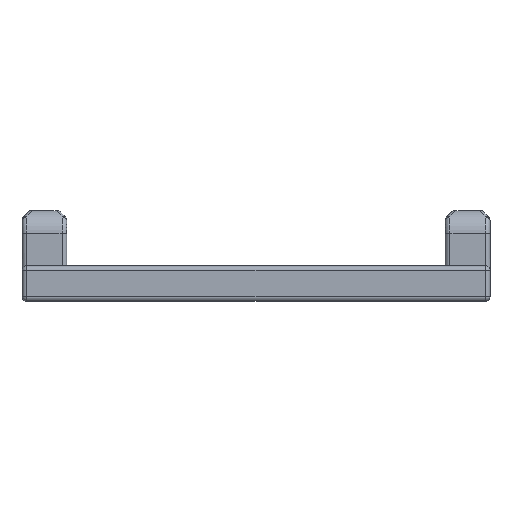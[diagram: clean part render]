
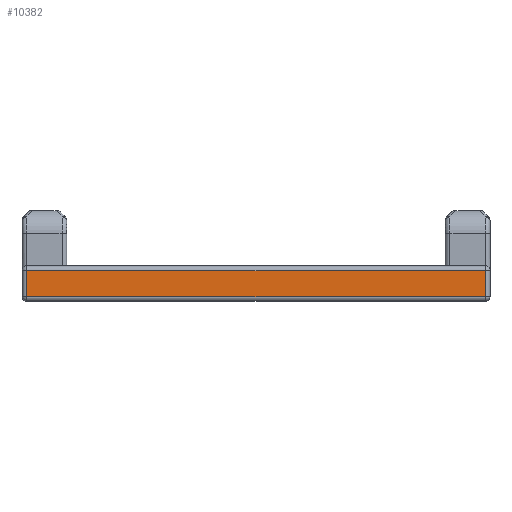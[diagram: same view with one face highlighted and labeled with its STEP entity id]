
A CAD part, top view. The second image highlights one B-rep face of the part: STEP entity #10382.
In plain terms, the highlighted planar face has unit normal (0, 0, 1) as drawn and (0, 1, 0) by its records, which use the part's own axes.
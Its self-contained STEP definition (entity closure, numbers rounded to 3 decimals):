
#696=LINE('',#13919,#1745);
#697=LINE('',#13922,#1746);
#698=LINE('',#13924,#1747);
#699=LINE('',#13926,#1748);
#1745=VECTOR('',#11667,1000.);
#1746=VECTOR('',#11668,1000.);
#1747=VECTOR('',#11669,1000.);
#1748=VECTOR('',#11670,1000.);
#2808=ORIENTED_EDGE('',*,*,#5966,.F.);
#2809=ORIENTED_EDGE('',*,*,#5967,.F.);
#2810=ORIENTED_EDGE('',*,*,#5968,.F.);
#2811=ORIENTED_EDGE('',*,*,#5969,.F.);
#5966=EDGE_CURVE('',#7544,#7545,#696,.T.);
#5967=EDGE_CURVE('',#7546,#7544,#697,.T.);
#5968=EDGE_CURVE('',#7547,#7546,#698,.T.);
#5969=EDGE_CURVE('',#7545,#7547,#699,.T.);
#7544=VERTEX_POINT('',#13920);
#7545=VERTEX_POINT('',#13921);
#7546=VERTEX_POINT('',#13923);
#7547=VERTEX_POINT('',#13925);
#8720=EDGE_LOOP('',(#2808,#2809,#2810,#2811));
#9385=FACE_BOUND('',#8720,.T.);
#10044=PLANE('',#11021);
#10382=ADVANCED_FACE('',(#9385),#10044,.T.);
#11021=AXIS2_PLACEMENT_3D('',#13918,#11665,#11666);
#11665=DIRECTION('',(0.,1.,0.));
#11666=DIRECTION('',(-1.,0.,0.));
#11667=DIRECTION('',(0.,0.,1.));
#11668=DIRECTION('',(1.,0.,0.));
#11669=DIRECTION('',(0.,0.,-1.));
#11670=DIRECTION('',(-1.,0.,0.));
#13918=CARTESIAN_POINT('',(2.3,4.5,0.));
#13919=CARTESIAN_POINT('',(2.,4.5,0.));
#13920=CARTESIAN_POINT('',(2.,4.5,-14.9));
#13921=CARTESIAN_POINT('',(2.,4.5,14.9));
#13922=CARTESIAN_POINT('',(2.53,4.5,-14.9));
#13923=CARTESIAN_POINT('',(0.3,4.5,-14.9));
#13924=CARTESIAN_POINT('',(0.3,4.5,0.));
#13925=CARTESIAN_POINT('',(0.3,4.5,14.9));
#13926=CARTESIAN_POINT('',(2.53,4.5,14.9));
